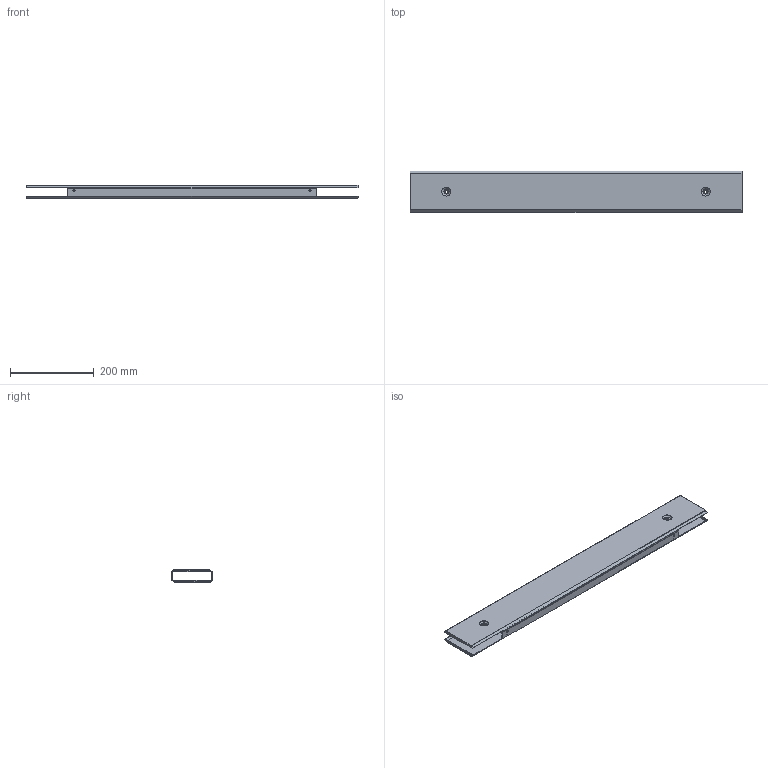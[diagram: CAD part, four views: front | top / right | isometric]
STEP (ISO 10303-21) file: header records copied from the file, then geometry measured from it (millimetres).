
FILE_DESCRIPTION (( 'STEP AP214' ), '1' );
FILE_NAME ('FO-00D-PC-010-080-7021 Êîìïëåêò ïàíåëè öîêîëÿ 100õ800ìì RAL7021 (2 øò.êîìïë.).STEP', '2025-08-21T13:08:49', ( '' ), ( '' ), 'SwSTEP 2.0', 'SolidWorks 2023', '' );
FILE_SCHEMA (( 'AUTOMOTIVE_DESIGN' ));
Length unit declared in the file: millimetre
Products named in the file (2): Панель цоколя 100х800мм; FO-00D-PC-010-080-7021 Комплект панели цоколя 100х800мм RAL7021 (2 шт.компл.)
Assembly tree (2 placements, depth 2):
  FO-00D-PC-010-080-7021 Комплект панели цоколя 100х800мм RAL7021 (2 шт.компл.)
    Панель цоколя 100х800мм  x2
Bounding box: 795 x 100.28 x 31.31 mm (x, y, z)
Volume: 286498.7 mm3; surface area: 414710.7 mm2
Topology: 2 solids, 2 shells, 118 faces, 302 edges, 196 vertices
Faces by surface type: plane 76, cylinder 26, cone 16
Entity records: 1870 total; most frequent: DIRECTION 321, CARTESIAN_POINT 313, ORIENTED_EDGE 302, EDGE_CURVE 151, LINE 109, VECTOR 109, AXIS2_PLACEMENT_3D 106, VERTEX_POINT 98
